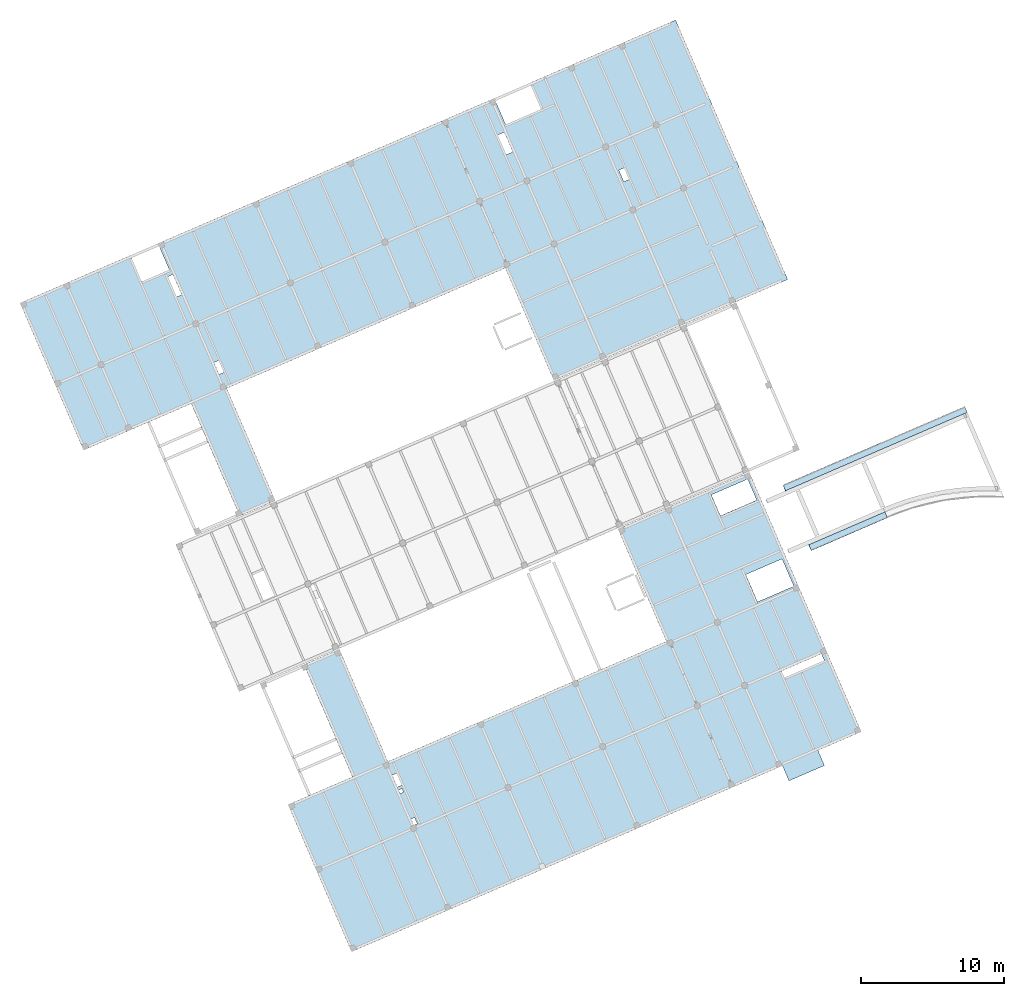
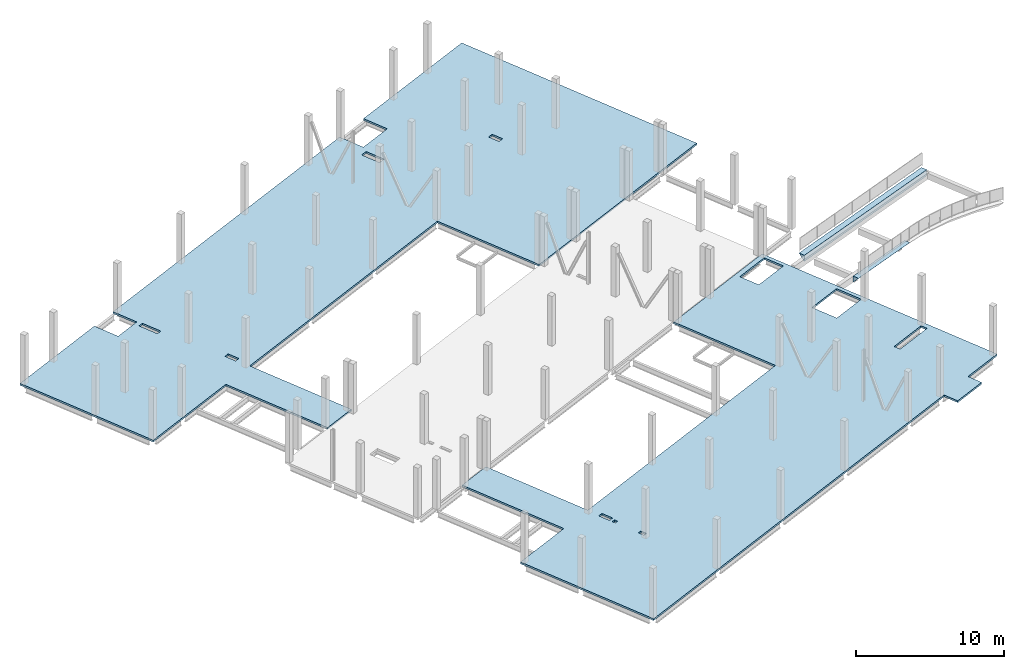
# One storey, part 22 of 24: 4 slabs, 10 openings.
"""IFC4 building model written with IfcOpenShell, lengths in metres."""

import ifcopenshell
import ifcopenshell.guid

model = None  # the IFC model being written
_history = None  # IfcOwnerHistory: only IFC2X3 demands one
_inside = {}  # id of a spatial element -> (the spatial element, [elements in it])
_under = {}  # id of a project, library or spatial element -> (it, [spatial elements below it])
_declared = {}  # id of a project -> (the project, [libraries it declares])
_typed = {}  # id of a type object -> (the type object, [elements of that type])
_made_of = {}  # id of a material, layer set ... -> (it, [elements and type objects made of it])


def new_model(schema):
    """Start an empty IFC model of exactly this schema.

    Asked for "IFC4X3", IfcOpenShell would pick the latest addendum, in which some entities
    have other attributes; the version numbers below select the first issue.
    IFC2X3 requires an IfcOwnerHistory on every rooted entity: one is made here for all.
    """
    global model, _history
    if schema == "IFC4X3":
        model = ifcopenshell.file(schema_version=(4, 3, 0, 0))
    else:
        model = ifcopenshell.file(schema=schema)
    _inside.clear()
    _under.clear()
    _declared.clear()
    _typed.clear()
    _made_of.clear()
    _history = None
    if model.schema == "IFC2X3":
        org = make("IfcOrganization", Name="unknown")
        user = make(
            "IfcPersonAndOrganization",
            ThePerson=make("IfcPerson", FamilyName="unknown"),
            TheOrganization=org,
        )
        app = make(
            "IfcApplication",
            ApplicationDeveloper=org,
            Version="unknown",
            ApplicationFullName="unknown",
            ApplicationIdentifier="unknown",
        )
        _history = make(
            "IfcOwnerHistory",
            OwningUser=user,
            OwningApplication=app,
            ChangeAction="ADDED",
            CreationDate=0,
        )
    return model


def make(cls, **values):
    """One entity of the class cls with the attributes given. An attribute that is None is left unset."""
    return model.create_entity(
        cls, **{name: value for name, value in values.items() if value is not None}
    )


def entity(cls, *values):
    """Any entity or typed value of the class cls, its attributes in the order of the schema. None: left unset."""
    e = model.create_entity(cls)
    for i, value in enumerate(values):
        if value is not None:
            e[i] = value
    return e


def rooted(cls, **values):
    """An entity with a GlobalId (a new one), such as an element, a storey or a relation."""
    return make(cls, GlobalId=ifcopenshell.guid.new(), OwnerHistory=_history, **values)


def si_unit(unit_type, name, prefix=None):
    """IfcSIUnit, for example si_unit("LENGTHUNIT", "METRE", prefix="MILLI")."""
    return make("IfcSIUnit", UnitType=unit_type, Prefix=prefix, Name=name)


def converted_unit(unit_type, name, factor, base, dimensions=None, offset=None):
    """IfcConversionBasedUnit, such as the inch: factor (a typed value) times the base unit."""
    return make(
        "IfcConversionBasedUnit"
        if offset is None
        else "IfcConversionBasedUnitWithOffset",
        ConversionOffset=offset,
        Dimensions=None
        if dimensions is None
        else entity("IfcDimensionalExponents", *dimensions),
        UnitType=unit_type,
        Name=name,
        ConversionFactor=make(
            "IfcMeasureWithUnit", ValueComponent=factor, UnitComponent=base
        ),
    )


def derived_unit(unit_type, elements):
    """IfcDerivedUnit: a product of units, each with its exponent."""
    return make(
        "IfcDerivedUnit",
        Elements=[
            make("IfcDerivedUnitElement", Unit=unit, Exponent=power)
            for unit, power in elements
        ],
        UnitType=unit_type,
    )


def assignment(units):
    """IfcUnitAssignment: the units of a project."""
    return None if units is None else make("IfcUnitAssignment", Units=units)


def point(xyz):
    """IfcCartesianPoint."""
    return None if xyz is None else make("IfcCartesianPoint", Coordinates=xyz)


def direction(xyz):
    """IfcDirection."""
    return None if xyz is None else make("IfcDirection", DirectionRatios=xyz)


def frame(location, z_axis=None, x_axis=None):
    """IfcAxis2Placement3D, a coordinate frame: its origin and axes. An axis left out is left unset."""
    return make(
        "IfcAxis2Placement3D",
        Location=point(location),
        Axis=direction(z_axis),
        RefDirection=direction(x_axis),
    )


def origin():
    """The frame at (0, 0, 0) with its axes left unset."""
    return frame((0.0, 0.0, 0.0))


def place(relative_to, where):
    """IfcLocalPlacement: puts the frame where relative to a parent placement (None: the world)."""
    return make(
        "IfcLocalPlacement", PlacementRelTo=relative_to, RelativePlacement=where
    )


def context(
    kind, dimensions, precision=None, world=None, true_north=None, identifier=None
):
    """IfcGeometricRepresentationContext, for example the 3D "Model" context."""
    return make(
        "IfcGeometricRepresentationContext",
        ContextIdentifier=identifier,
        ContextType=kind,
        CoordinateSpaceDimension=dimensions,
        Precision=precision,
        WorldCoordinateSystem=world,
        TrueNorth=true_north,
    )


def subcontext(parent, identifier, kind, view, scale=None):
    """IfcGeometricRepresentationSubContext, for example "Body" below "Model"."""
    return make(
        "IfcGeometricRepresentationSubContext",
        ContextIdentifier=identifier,
        ContextType=kind,
        ParentContext=parent,
        TargetScale=scale,
        TargetView=view,
    )


def project(units=None, contexts=None):
    """IfcProject with its units and contexts."""
    return rooted(
        "IfcProject",
        Name="project",
        RepresentationContexts=contexts,
        UnitsInContext=assignment(units),
    )


def spatial(cls, under=None, at=None, **own):
    """A site, building, storey or space (cls), placed at a placement, below another one or the project."""
    s = rooted(cls, ObjectPlacement=at, **own)
    if under is not None:
        _under.setdefault(under.id(), (under, []))[1].append(s)
    return s


def point_list(points):
    """IfcCartesianPointList2D or 3D."""
    cls = (
        "IfcCartesianPointList2D" if len(points[0]) == 2 else "IfcCartesianPointList3D"
    )
    return make(cls, CoordList=points)


def indexed_curve(points, segments=None, self_intersect=None):
    """IfcIndexedPolyCurve: lines and arcs through numbered points (the first is 1)."""
    return make(
        "IfcIndexedPolyCurve",
        Points=point_list(points),
        Segments=segments,
        SelfIntersect=self_intersect,
    )


def outline(outer, holes=None, kind="AREA"):
    """IfcArbitraryClosedProfileDef: a profile drawn as a closed curve; with holes, ...WithVoids."""
    if holes is None:
        return make("IfcArbitraryClosedProfileDef", ProfileType=kind, OuterCurve=outer)
    return make(
        "IfcArbitraryProfileDefWithVoids",
        ProfileType=kind,
        OuterCurve=outer,
        InnerCurves=holes,
    )


def extrude(swept, where, along, depth):
    """IfcExtrudedAreaSolid: the profile swept, set in the frame where, extruded along a direction by depth."""
    return make(
        "IfcExtrudedAreaSolid",
        SweptArea=swept,
        Position=where,
        ExtrudedDirection=direction(along),
        Depth=depth,
    )


def shape(context_of_items, identifier, shape_type, items):
    """IfcShapeRepresentation: the items that make up one representation, for example the "Body"."""
    return make(
        "IfcShapeRepresentation",
        ContextOfItems=context_of_items,
        RepresentationIdentifier=identifier,
        RepresentationType=shape_type,
        Items=items,
    )


def material(Name=None, Category=None):
    """IfcMaterial."""
    return make("IfcMaterial", Name=Name, Category=Category)


def constituent(of_material, Name=None, Category=None, fraction=None):
    """IfcMaterialConstituent: one of the materials an element consists of."""
    return make(
        "IfcMaterialConstituent",
        Name=Name,
        Material=of_material,
        Fraction=fraction,
        Category=Category,
    )


def constituent_set(constituents=None, Name=None):
    """IfcMaterialConstituentSet."""
    return make(
        "IfcMaterialConstituentSet", Name=Name, MaterialConstituents=constituents
    )


def made_of(thing, what):
    """Note that an element or type object is made of a material, layer set ...; save() writes the relation."""
    if what is not None:
        _made_of.setdefault(what.id(), (what, []))[1].append(thing)
    return thing


def type_object(cls, material=None, **own):
    """A type object (cls), such as IfcWallType, which elements share."""
    return made_of(rooted(cls, **own), material)


def element(
    cls,
    number,
    at=None,
    inside=None,
    cuts=None,
    type_object=None,
    material=None,
    context=None,
    identifier="Body",
    shape_type=None,
    held_by="IfcProductDefinitionShape",
    body=None,
    shapes=None,
    **own,
):
    """One element of the class cls, such as IfcWall. Its Tag is "e" and its number.

    at: its placement. inside: the storey or other place that contains it. cuts: it is an
    opening in that element (IfcRelVoidsElement). A single representation is given by context,
    identifier, shape_type and body (its items); several are given by shapes. held_by: the class
    of the entity that holds the representations. save() writes the other relations.
    """
    e = rooted(cls, Tag="e%d" % number, ObjectPlacement=at, **own)
    if body is not None:
        shapes = [shape(context, identifier, shape_type, body)]
    if shapes is not None:
        e.Representation = make(held_by, Representations=shapes)
    if inside is not None:
        _inside.setdefault(inside.id(), (inside, []))[1].append(e)
    if cuts is not None:
        rooted(
            "IfcRelVoidsElement", RelatingBuildingElement=cuts, RelatedOpeningElement=e
        )
    if type_object is not None:
        _typed.setdefault(type_object.id(), (type_object, []))[1].append(e)
    return made_of(e, material)


def aggregate(whole, parts):
    """IfcRelAggregates: a whole, such as a stair, and the parts it consists of."""
    return rooted("IfcRelAggregates", RelatingObject=whole, RelatedObjects=parts)


def save(model, path):
    """Write the relations noted so far, then the file.

    IfcRelAggregates (storeys below a building ...), IfcRelContainedInSpatialStructure (elements
    in a storey), IfcRelDefinesByType, IfcRelAssociatesMaterial and IfcRelDeclares: one each for
    every whole, place, type object, material and project.
    """
    for whole, parts in _under.values():
        aggregate(whole, parts)
    for where, things in _inside.values():
        rooted(
            "IfcRelContainedInSpatialStructure",
            RelatedElements=things,
            RelatingStructure=where,
        )
    for kind, things in _typed.values():
        rooted("IfcRelDefinesByType", RelatedObjects=things, RelatingType=kind)
    for what, things in _made_of.values():
        rooted("IfcRelAssociatesMaterial", RelatedObjects=things, RelatingMaterial=what)
    for by, libraries in _declared.values():
        rooted("IfcRelDeclares", RelatingContext=by, RelatedDefinitions=libraries)
    model.write(path)


model = new_model("IFC4")

# Units and contexts
model_context = context("Model", 3, precision=1e-05, world=origin(), true_north=direction((6.12323399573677e-17, 1.0)))
body_context = subcontext(model_context, "Body", "Model", "MODEL_VIEW")
ifc_project = project(units=[si_unit("LENGTHUNIT", "METRE"), si_unit("AREAUNIT", "SQUARE_METRE"), si_unit("VOLUMEUNIT", "CUBIC_METRE"), converted_unit("PLANEANGLEUNIT", "DEGREE", entity("IfcPlaneAngleMeasure", 0.0174532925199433), si_unit("PLANEANGLEUNIT", "RADIAN"), dimensions=[0, 0, 0, 0, 0, 0, 0]), si_unit("MASSUNIT", "GRAM", prefix="KILO"), derived_unit("MOMENTOFINERTIAUNIT", [(si_unit("LENGTHUNIT", "METRE"), 4)]), derived_unit("LINEARFORCEUNIT", [(si_unit("MASSUNIT", "GRAM", prefix="KILO"), 1), (si_unit("TIMEUNIT", "SECOND"), -2)]), derived_unit("WARPINGCONSTANTUNIT", [(si_unit("LENGTHUNIT", "METRE"), 6)]), derived_unit("THERMALTRANSMITTANCEUNIT", [(si_unit("MASSUNIT", "GRAM", prefix="KILO"), 1), (si_unit("THERMODYNAMICTEMPERATUREUNIT", "KELVIN"), -1), (si_unit("TIMEUNIT", "SECOND"), -3)]), derived_unit("USERDEFINED", [(si_unit("MASSUNIT", "GRAM", prefix="KILO"), 1), (si_unit("TIMEUNIT", "SECOND"), -2), (si_unit("THERMODYNAMICTEMPERATUREUNIT", "KELVIN"), -1)]), derived_unit("THERMALRESISTANCEUNIT", [(si_unit("MASSUNIT", "GRAM", prefix="KILO"), -1), (si_unit("TIMEUNIT", "SECOND"), 3), (si_unit("THERMODYNAMICTEMPERATUREUNIT", "KELVIN"), 1)])], contexts=[model_context])

# Site, building, storey
site_placement = place(None, origin())
site = spatial("IfcSite", under=ifc_project, at=site_placement, Name="Default", CompositionType="ELEMENT")
building_placement = place(site_placement, frame((12.6613425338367, -82.5732315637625, 317.15), z_axis=(0.0, 0.0, 1.0), x_axis=(-0.396377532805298, 0.918087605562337, 0.0)))
building = spatial("IfcBuilding", under=site, at=building_placement, Name="CESFAM Coyhaique", CompositionType="ELEMENT")
storey_placement = place(building_placement, frame((0.0, 0.0, 4.20000000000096)))
storey = spatial("IfcBuildingStorey", under=building, at=storey_placement, Name="Nivel 2", CompositionType="ELEMENT", Elevation=4.20000000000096)

# Slab, openings
ifc_material = material(Name="HA")
ifc_constituent = constituent(ifc_material, Name="HA", fraction=1.0)
ifc_constituent_set = constituent_set(constituents=[ifc_constituent], Name="Floor:Losa colaborante 150mm")
slab_type_1 = type_object("IfcSlabType", Name="Floor:Losa colaborante 150mm", PredefinedType="FLOOR", material=ifc_constituent_set)
slab_1_placement = place(storey_placement, origin())
slab_1 = element("IfcSlab", 1, at=slab_1_placement, inside=storey, type_object=slab_type_1, material=ifc_constituent_set, Name="Floor:Losa colaborante 150mm", ObjectType="Floor:Losa colaborante 150mm", PredefinedType="FLOOR", context=body_context, shape_type="SweptSolid", body=[
    extrude(outline(indexed_curve([(4.63757814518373, -11.1296874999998), (22.4375781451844, -11.1296874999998), (22.4375781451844, 8.62031249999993), (11.3375781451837, 8.62031249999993), (11.3375781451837, 6.62031249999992), (8.63757814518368, 6.62031249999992), (8.63757814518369, 8.62031249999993), (-16.9624218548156, 8.62031249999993), (-16.9624218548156, 6.62031249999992), (-19.0624218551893, 6.62031249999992), (-19.0624218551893, 8.62031249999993), (-27.4624218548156, 8.62031249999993), (-27.4624218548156, -2.57968750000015), (-19.2624218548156, -2.57968750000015), (-19.2624218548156, -11.1296874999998), (-16.5624218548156, -11.1296874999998), (-16.5624218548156, -2.57968750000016), (4.63757814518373, -2.57968750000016), (4.63757814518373, -11.1296874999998)], self_intersect=False), holes=[indexed_curve([(-16.8624218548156, 6.22005758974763), (-16.8624218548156, 4.67031249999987), (-17.2424223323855, 4.67031249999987), (-17.2424223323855, 6.22005758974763), (-16.8624218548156, 6.22005758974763)], self_intersect=False), indexed_curve([(-16.6624218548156, -0.569687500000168), (-16.3024218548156, -0.569687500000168), (-16.3024218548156, -1.46968750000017), (-16.6624218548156, -1.46968750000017), (-16.6624218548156, -0.569687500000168)], self_intersect=False), indexed_curve([(8.33757814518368, 6.17031249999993), (8.33757814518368, 4.6703125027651), (7.83757814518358, 4.6703125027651), (7.83757814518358, 6.17031249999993), (8.33757814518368, 6.17031249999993)], self_intersect=False), indexed_curve([(14.6375781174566, -0.319687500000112), (14.6375781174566, 0.560312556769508), (15.0375781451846, 0.560312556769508), (15.0375781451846, -0.319687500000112), (14.6375781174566, -0.319687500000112)], self_intersect=False)]), frame((46.1485409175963, -6.7595714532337, -0.150000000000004), z_axis=(0.0, 0.0, 1.0), x_axis=(0.0, -1.0, 0.0)), (0.0, 0.0, 1.0), 0.15),
])
opening_1_placement = place(slab_1_placement, origin())
element("IfcOpeningElement", 2, at=opening_1_placement, cuts=slab_1, Name="Floor:Losa colaborante 150mm", PredefinedType="OPENING", context=body_context, shape_type="SweptSolid", body=[
    extrude(outline(indexed_curve([(52.3685985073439, 10.1028504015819), (52.3685985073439, 10.4828508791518), (50.8188534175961, 10.4828508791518), (50.8188534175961, 10.1028504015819), (52.3685985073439, 10.1028504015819)], self_intersect=False)), origin(), (0.0, 0.0, -1.0), 0.15),
])
opening_2_placement = place(slab_1_placement, origin())
element("IfcOpeningElement", 3, at=opening_2_placement, cuts=slab_1, Name="Floor:Losa colaborante 150mm", PredefinedType="OPENING", context=body_context, shape_type="SweptSolid", body=[
    extrude(outline(indexed_curve([(45.5788534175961, 9.9028504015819), (44.6788534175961, 9.9028504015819), (44.6788534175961, 9.54285040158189), (45.5788534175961, 9.54285040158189), (45.5788534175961, 9.9028504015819)], self_intersect=False)), origin(), (0.0, 0.0, -1.0), 0.15),
])
opening_3_placement = place(slab_1_placement, origin())
element("IfcOpeningElement", 4, at=opening_3_placement, cuts=slab_1, Name="Floor:Losa colaborante 150mm", PredefinedType="OPENING", context=body_context, shape_type="SweptSolid", body=[
    extrude(outline(indexed_curve([(52.3188534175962, -15.0971495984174), (52.3188534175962, -14.5971495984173), (50.8188534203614, -14.5971495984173), (50.8188534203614, -15.0971495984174), (52.3188534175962, -15.0971495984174)], self_intersect=False)), origin(), (0.0, 0.0, -1.0), 0.15),
])
opening_4_placement = place(slab_1_placement, origin())
element("IfcOpeningElement", 5, at=opening_4_placement, cuts=slab_1, Name="Floor:Losa colaborante 150mm", PredefinedType="OPENING", context=body_context, shape_type="SweptSolid", body=[
    extrude(outline(indexed_curve([(45.8288534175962, -21.3971495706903), (45.8288534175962, -21.7971495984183), (46.7088534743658, -21.7971495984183), (46.7088534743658, -21.3971495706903), (45.8288534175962, -21.3971495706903)], self_intersect=False)), origin(), (0.0, 0.0, -1.0), 0.15),
])

slab_2_placement = place(storey_placement, origin())
slab_2 = element("IfcSlab", 6, at=slab_2_placement, inside=storey, type_object=slab_type_1, material=ifc_constituent_set, Name="Floor:Losa colaborante 150mm", ObjectType="Floor:Losa colaborante 150mm", PredefinedType="FLOOR", context=body_context, shape_type="SweptSolid", body=[
    extrude(outline(indexed_curve([(-10.8187210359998, 2.41744186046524), (-10.8187210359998, 10.9674418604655), (-20.818721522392, 10.9674418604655), (-20.818721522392, -8.78255813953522), (-17.5187210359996, -8.78255813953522), (-17.5187210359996, -9.93255813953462), (-14.8187210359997, -9.93255813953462), (-14.8187210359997, -8.78255813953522), (17.9812789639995, -8.78255813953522), (17.9812789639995, 2.4174418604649), (13.0812789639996, 2.4174418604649), (13.0812789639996, 10.9674418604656), (10.3812789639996, 10.9674418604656), (10.3812789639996, 2.41744186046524), (-10.8187210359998, 2.41744186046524)], self_intersect=False), holes=[indexed_curve([(10.1212789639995, 0.517441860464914), (10.1212789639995, 1.41744186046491), (10.4812789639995, 1.41744186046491), (10.4812789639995, 0.517441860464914), (10.1212789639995, 0.517441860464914)], self_intersect=False), indexed_curve([(10.2212792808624, 0.282441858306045), (10.4812789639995, 0.282441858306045), (10.4812789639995, 0.0224418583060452), (10.2212792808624, 0.0224418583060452), (10.2212792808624, 0.282441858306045)], self_intersect=False), indexed_curve([(-20.4187210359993, -3.18693206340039), (-20.4187210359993, -2.78255813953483), (-20.4187210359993, -2.68255813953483), (-17.3787210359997, -2.68255813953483), (-17.3787210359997, -3.18693206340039), (-20.4187210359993, -3.18693206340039)], self_intersect=False), indexed_curve([(-20.5187209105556, 4.49643031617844), (-17.7597210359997, 4.49643031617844), (-17.7597210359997, 2.41744186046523), (-20.4187210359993, 2.41744186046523), (-20.5187209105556, 2.41744186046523), (-20.5187209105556, 4.49643031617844)], self_intersect=False), indexed_curve([(-20.5237210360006, 8.96744186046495), (-20.5237210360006, 10.5674418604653), (-20.4187210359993, 10.5674418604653), (-17.7597210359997, 10.5674418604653), (-17.7597210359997, 8.96744186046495), (-20.5237210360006, 8.96744186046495)], self_intersect=False), indexed_curve([(10.2212186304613, -1.92255813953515), (10.4812789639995, -1.92255813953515), (10.4812789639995, -2.38255813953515), (10.3812789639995, -2.38255813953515), (10.2212186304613, -2.38255813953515), (10.2212186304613, -1.92255813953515)], self_intersect=False)]), frame((12.7514115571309, -0.578428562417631, -0.149999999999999), z_axis=(0.0, 0.0, -1.0), x_axis=(0.0, 1.0, 0.0)), (0.0, 0.0, -1.0), 0.15),
])
opening_5_placement = place(slab_2_placement, origin())
element("IfcOpeningElement", 7, at=opening_5_placement, cuts=slab_2, Name="Floor:Losa colaborante 150mm", PredefinedType="OPENING", context=body_context, shape_type="SweptSolid", body=[
    extrude(outline(indexed_curve([(13.2688534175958, 9.9028504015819), (13.2688534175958, 9.54285040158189), (14.1688534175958, 9.54285040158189), (14.1688534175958, 9.9028504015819), (13.2688534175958, 9.9028504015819)], self_intersect=False)), origin(), (0.0, 0.0, -1.0), 0.15),
])
opening_6_placement = place(slab_2_placement, origin())
element("IfcOpeningElement", 8, at=opening_6_placement, cuts=slab_2, Name="Floor:Losa colaborante 150mm", PredefinedType="OPENING", context=body_context, shape_type="SweptSolid", body=[
    extrude(outline(indexed_curve([(13.0338534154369, 9.64285071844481), (13.0338534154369, 9.9028504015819), (12.7738534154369, 9.9028504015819), (12.7738534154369, 9.64285071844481), (13.0338534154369, 9.64285071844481)], self_intersect=False)), origin(), (0.0, 0.0, -1.0), 0.15),
])
opening_7_placement = place(slab_2_placement, origin())
element("IfcOpeningElement", 9, at=opening_7_placement, cuts=slab_2, Name="Floor:Losa colaborante 150mm", PredefinedType="OPENING", context=body_context, shape_type="SweptSolid", body=[
    extrude(outline(indexed_curve([(9.56447949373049, -20.9971495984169), (10.0688534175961, -20.9971495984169), (10.0688534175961, -17.9571495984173), (9.56447949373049, -17.9571495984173), (9.56447949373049, -20.9971495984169)], self_intersect=False)), origin(), (0.0, 0.0, -1.0), 0.15),
])
opening_8_placement = place(slab_2_placement, origin())
element("IfcOpeningElement", 10, at=opening_8_placement, cuts=slab_2, Name="Floor:Losa colaborante 150mm", PredefinedType="OPENING", context=body_context, shape_type="SweptSolid", body=[
    extrude(outline(indexed_curve([(17.2478418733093, -21.0971494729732), (17.2478418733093, -18.3381495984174), (15.1688534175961, -18.3381495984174), (15.1688534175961, -21.0971494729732), (17.2478418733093, -21.0971494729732)], self_intersect=False)), origin(), (0.0, 0.0, -1.0), 0.15),
])
opening_9_placement = place(slab_2_placement, origin())
element("IfcOpeningElement", 11, at=opening_9_placement, cuts=slab_2, Name="Floor:Losa colaborante 150mm", PredefinedType="OPENING", context=body_context, shape_type="SweptSolid", body=[
    extrude(outline(indexed_curve([(21.7188534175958, -21.1021495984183), (23.3188534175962, -21.1021495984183), (23.3188534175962, -18.3381495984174), (21.7188534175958, -18.3381495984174), (21.7188534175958, -21.1021495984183)], self_intersect=False)), origin(), (0.0, 0.0, -1.0), 0.15),
])
opening_10_placement = place(slab_2_placement, origin())
element("IfcOpeningElement", 12, at=opening_10_placement, cuts=slab_2, Name="Floor:Losa colaborante 150mm", PredefinedType="OPENING", context=body_context, shape_type="SweptSolid", body=[
    extrude(outline(indexed_curve([(10.8288534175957, 9.64279006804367), (10.8288534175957, 9.9028504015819), (10.3688534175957, 9.9028504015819), (10.3688534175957, 9.64279006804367), (10.8288534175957, 9.64279006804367)], self_intersect=False)), origin(), (0.0, 0.0, -1.0), 0.15),
])

# Slabs
slab_type_2 = type_object("IfcSlabType", Name="Borde01:Borde01", PredefinedType="FLOOR", material=ifc_material)
slab_3_placement = place(storey_placement, origin())
element("IfcSlab", 13, at=slab_3_placement, inside=storey, type_object=slab_type_2, Name="Borde01:Borde01", ObjectType="Borde01:Borde01", PredefinedType="FLOOR", context=body_context, shape_type="SweptSolid", body=[
    extrude(outline(indexed_curve([(-0.300000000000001, -0.166666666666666), (0.150000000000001, -0.166666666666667), (0.149999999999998, 0.333333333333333), (-0.300000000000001, -0.166666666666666)], self_intersect=False)), frame((17.2688534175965, -28.9884582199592, -0.696800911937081), z_axis=(0.0, 0.998639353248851, 0.0521482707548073), x_axis=(1.0, 0.0, 0.0)), (0.0, 0.0, 1.0), 5.79570766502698),
])
slab_type_3 = type_object("IfcSlabType", Name="Borde03:Borde03", PredefinedType="FLOOR", material=ifc_material)
slab_4_placement = place(storey_placement, origin())
element("IfcSlab", 14, at=slab_4_placement, inside=storey, type_object=slab_type_3, Name="Borde03:Borde03", ObjectType="Borde03:Borde03", PredefinedType="FLOOR", context=body_context, shape_type="SweptSolid", body=[
    extrude(outline(indexed_curve([(-0.324571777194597, -0.111494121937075), (0.34810942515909, -0.111494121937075), (-0.0235376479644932, 0.222988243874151), (-0.324571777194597, -0.111494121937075)], self_intersect=False)), frame((21.6688534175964, -37.0284582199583, -1.11664426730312), z_axis=(0.0, 0.998639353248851, 0.0521482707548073), x_axis=(-0.66896473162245, 0.0387615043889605, -0.742282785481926)), (0.0, 0.0, 1.0), 13.846662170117),
])

save(model, "model.ifc")
